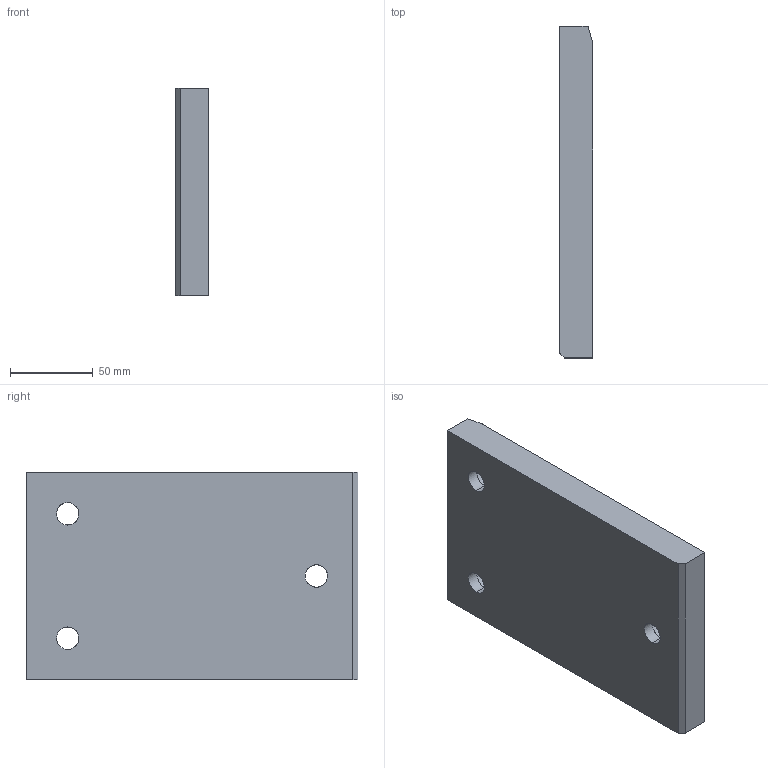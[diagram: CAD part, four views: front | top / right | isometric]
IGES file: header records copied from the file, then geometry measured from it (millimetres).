
Start section: START RECORD GO HERE.
Global section: file name: A915-125X200.igs; native system: DASSAULT SYSTEMES CATIA V5 R20 - www.3ds.com; preprocessor: CATIA Version 5 Release 20 ; author: Utente; organization: NB04-ASUS; date: 20200407.210436; units: millimetre
Bounding box: 20 x 200 x 125 mm (x, y, z)
Surface area: 64704.3 mm2 (no closed solid volume)
Topology: 0 solids, 0 shells, 30 faces, 138 edges, 138 vertices
Faces by surface type: revolution 19, extrusion 11
